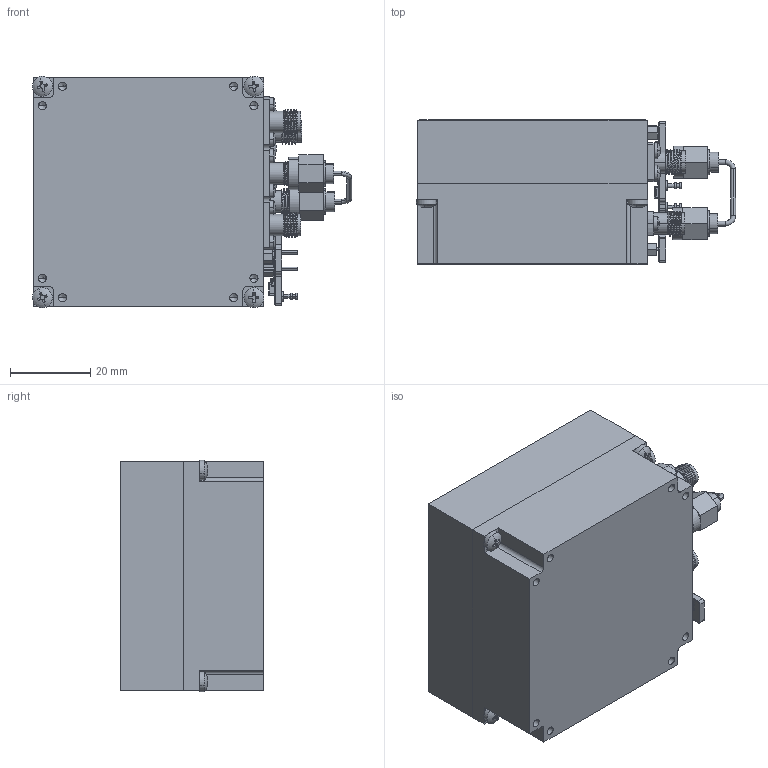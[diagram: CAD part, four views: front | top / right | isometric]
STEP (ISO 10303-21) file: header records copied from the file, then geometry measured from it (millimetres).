
FILE_DESCRIPTION (( 'STEP AP214' ), '1' );
FILE_NAME ('PDRO-115625M-13DBM-SFF.STEP', '2026-09-16T20:23:40', ( '' ), ( '' ), 'SwSTEP 2.0', 'SolidWorks 2025', '' );
FILE_SCHEMA (( 'AUTOMOTIVE_DESIGN' ));
Length unit declared in the file: inch
Products named in the file (1): PDRO-115625M-13DBM-SFF
Bounding box: 79.4 x 35.75 x 57.6 mm (x, y, z)
Volume: 119018.3 mm3; surface area: 37843.7 mm2
Topology: 115 solids, 115 shells, 4161 faces, 12292 edges, 8577 vertices
Faces by surface type: plane 3190, cylinder 807, cone 92, sphere 52, bspline 12, torus 8
Full cylindrical faces by diameter (mm): 0.254 x20, 1.27 x15, 1.702 x6, 1.778 x2, 2.158 x2, 2.159 x4
Entity records: 206379 total; most frequent: CARTESIAN_POINT 38717, ORIENTED_EDGE 24390, DIRECTION 21459, EDGE_CURVE 12195, LINE 9391, VECTOR 9391, VERTEX_POINT 8577, AXIS2_PLACEMENT_3D 6034
